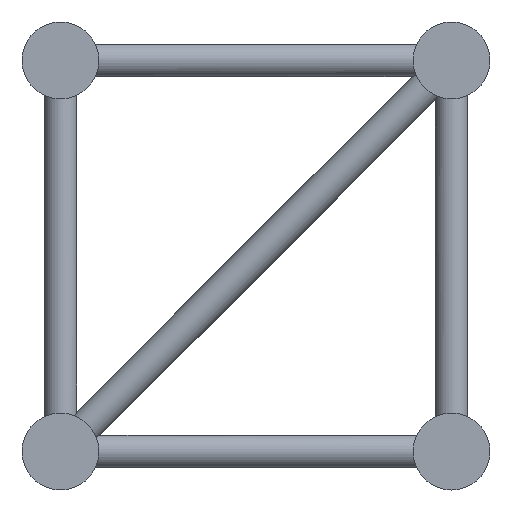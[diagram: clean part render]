
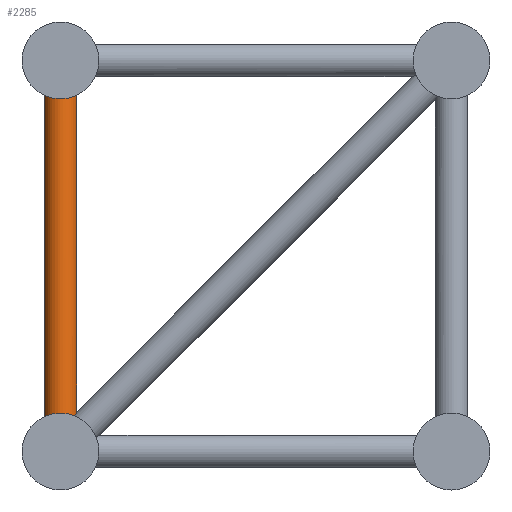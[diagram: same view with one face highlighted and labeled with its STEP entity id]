
A CAD part, left-side view. The second image highlights one B-rep face of the part: STEP entity #2285.
In plain terms, the highlighted cylindrical face has radius 12.5 mm (diameter 25 mm), a full revolution.
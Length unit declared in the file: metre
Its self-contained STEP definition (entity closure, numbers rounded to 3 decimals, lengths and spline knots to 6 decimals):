
#265=FACE_BOUND('',#556,.T.);
#402=FACE_OUTER_BOUND('',#555,.T.);
#555=EDGE_LOOP('',(#1520,#1521,#1522,#1523));
#556=EDGE_LOOP('',(#1524,#1525));
#835=CIRCLE('',#2477,0.0125);
#836=CIRCLE('',#2478,0.0125);
#837=CIRCLE('',#2479,0.0125);
#838=CIRCLE('',#2480,0.0125);
#839=CIRCLE('',#2481,0.0125);
#943=ELLIPSE('',#2476,0.032664,0.0125);
#996=VERTEX_POINT('',#3479);
#997=VERTEX_POINT('',#3480);
#998=VERTEX_POINT('',#3482);
#999=VERTEX_POINT('',#3484);
#1000=VERTEX_POINT('',#3487);
#1001=VERTEX_POINT('',#3488);
#1212=EDGE_CURVE('',#996,#997,#943,.T.);
#1213=EDGE_CURVE('',#998,#996,#835,.T.);
#1214=EDGE_CURVE('',#999,#998,#836,.T.);
#1215=EDGE_CURVE('',#997,#999,#837,.T.);
#1216=EDGE_CURVE('',#1000,#1001,#838,.T.);
#1217=EDGE_CURVE('',#1001,#1000,#839,.T.);
#1520=ORIENTED_EDGE('',*,*,#1212,.F.);
#1521=ORIENTED_EDGE('',*,*,#1213,.F.);
#1522=ORIENTED_EDGE('',*,*,#1214,.F.);
#1523=ORIENTED_EDGE('',*,*,#1215,.F.);
#1524=ORIENTED_EDGE('',*,*,#1216,.F.);
#1525=ORIENTED_EDGE('',*,*,#1217,.F.);
#2049=CYLINDRICAL_SURFACE('',#2475,0.0125);
#2285=ADVANCED_FACE('',(#402,#265),#2049,.T.);
#2475=AXIS2_PLACEMENT_3D('',#3478,#2851,#2852);
#2476=AXIS2_PLACEMENT_3D('',#3481,#2853,#2854);
#2477=AXIS2_PLACEMENT_3D('',#3483,#2855,#2856);
#2478=AXIS2_PLACEMENT_3D('',#3485,#2857,#2858);
#2479=AXIS2_PLACEMENT_3D('',#3486,#2859,#2860);
#2480=AXIS2_PLACEMENT_3D('',#3489,#2861,#2862);
#2481=AXIS2_PLACEMENT_3D('',#3490,#2863,#2864);
#2851=DIRECTION('center_axis',(0.,0.,
1.));
#2852=DIRECTION('ref_axis',(-0.834,-0.552,0.));
#2853=DIRECTION('center_axis',(0.,-0.924,-0.383));
#2854=DIRECTION('ref_axis',(0.,-0.383,0.924));
#2855=DIRECTION('center_axis',(0.,0.,
-1.));
#2856=DIRECTION('ref_axis',(-0.834,-0.552,0.));
#2857=DIRECTION('center_axis',(0.,0.,
-1.));
#2858=DIRECTION('ref_axis',(-0.834,-0.552,0.));
#2859=DIRECTION('center_axis',(0.,0.,
-1.));
#2860=DIRECTION('ref_axis',(-0.834,-0.552,0.));
#2861=DIRECTION('center_axis',(0.,0.,
1.));
#2862=DIRECTION('ref_axis',(-0.834,-0.552,0.));
#2863=DIRECTION('center_axis',(0.,0.,
1.));
#2864=DIRECTION('ref_axis',(-0.834,-0.552,0.));
#3478=CARTESIAN_POINT('Origin',(0.0925,0.299,-0.274));
#3479=CARTESIAN_POINT('',(0.099501,0.288645,-0.274));
#3480=CARTESIAN_POINT('',(0.085499,0.288645,-0.274));
#3481=CARTESIAN_POINT('Origin',(0.0925,0.299,-0.299));
#3482=CARTESIAN_POINT('',(0.105,0.299,-0.274));
#3483=CARTESIAN_POINT('Origin',(0.0925,0.299,-0.274));
#3484=CARTESIAN_POINT('',(0.08,0.299,-0.274));
#3485=CARTESIAN_POINT('Origin',(0.0925,0.299,-0.274));
#3486=CARTESIAN_POINT('Origin',(0.0925,0.299,-0.274));
#3487=CARTESIAN_POINT('',(0.105,0.299,-0.025));
#3488=CARTESIAN_POINT('',(0.08,0.299,-0.025));
#3489=CARTESIAN_POINT('Origin',(0.0925,0.299,-0.025));
#3490=CARTESIAN_POINT('Origin',(0.0925,0.299,-0.025));
